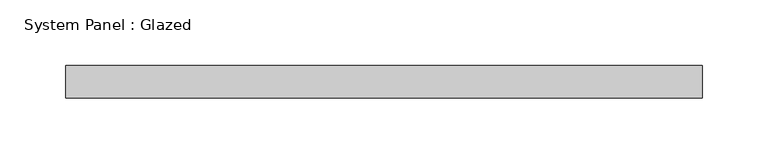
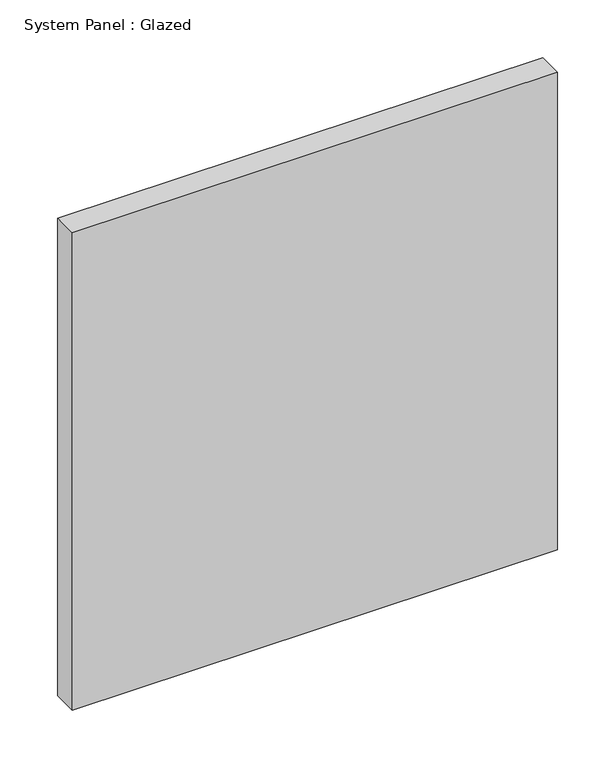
"""IFC4 building model written with IfcOpenShell, lengths in millimetres: plate geometry, System Panel : Glazed."""

from ifc_helpers import new_model, si_unit, origin, origin_with_axes, place, context, project, spatial, polyline, outline, extrude, source, transform, mapped, element, save


def system_panel_glazed_873d9312(model_context):
    return source(origin(), model_context, "Body", "SweptSolid", [
        extrude(outline(polyline([(242.8679656, -12.5), (-242.8679656, -12.5), (-242.8679656, 12.5), (242.8679656, 12.5), (242.8679656, -12.5)])), origin_with_axes(), (0.0, 0.0, 1.0), 505.0),
    ])


if __name__ == "__main__":
    model = new_model("IFC4")
    model_context = context("Model", 3, world=origin())
    ifc_project = project(units=[si_unit("LENGTHUNIT", "METRE", prefix="MILLI")], contexts=[model_context])
    site = spatial("IfcSite", under=ifc_project)
    building = spatial("IfcBuilding", under=site)
    placement = place(None, origin())
    system_panel_glazed_shape = system_panel_glazed_873d9312(model_context)
    element("IfcPlate", 1, ObjectType="System Panel : Glazed", at=placement, inside=building, context=model_context, shape_type="MappedRepresentation", body=[
        mapped(system_panel_glazed_shape, transform((0.0, 0.0, 0.0), x_axis=(1.0, 0.0, 0.0), y_axis=(0.0, 1.0, 0.0), z_axis=(0.0, 0.0, 1.0))),
    ])
    save(model, "model.ifc")
